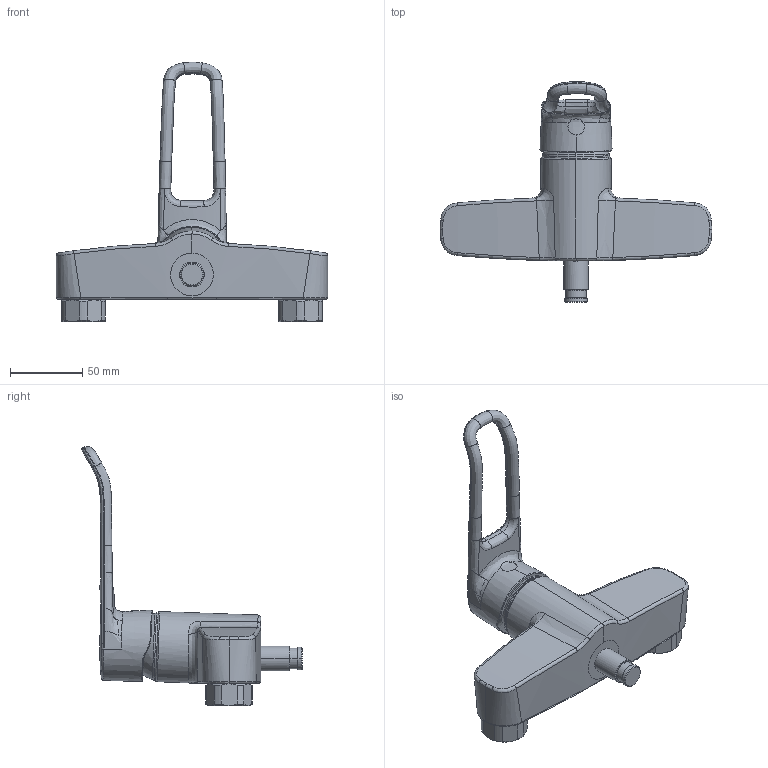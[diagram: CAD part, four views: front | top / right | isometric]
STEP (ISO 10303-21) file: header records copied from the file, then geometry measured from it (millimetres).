
FILE_DESCRIPTION (( 'STEP AP203' ), '1' );
FILE_NAME ('5617(2021).STEP', '2021-07-14T09:28:48', ( '' ), ( '' ), 'SwSTEP 2.0', 'SolidWorks 2016', '' );
FILE_SCHEMA (( 'CONFIG_CONTROL_DESIGN' ));
Length unit declared in the file: millimetre
Products named in the file (1): 5617(2021)
Bounding box: 187.5 x 152.16 x 179.03 mm (x, y, z)
Volume: 446352.2 mm3; surface area: 56600.1 mm2
Topology: 1 solids, 1 shells, 223 faces, 529 edges, 323 vertices
Faces by surface type: bspline 127, cone 34, cylinder 32, plane 28, sphere 2
Entity records: 24731 total; most frequent: CARTESIAN_POINT 20528, ORIENTED_EDGE 1058, DIRECTION 547, EDGE_CURVE 529, VERTEX_POINT 323, B_SPLINE_CURVE_WITH_KNOTS 296, EDGE_LOOP 240, AXIS2_PLACEMENT_3D 238
